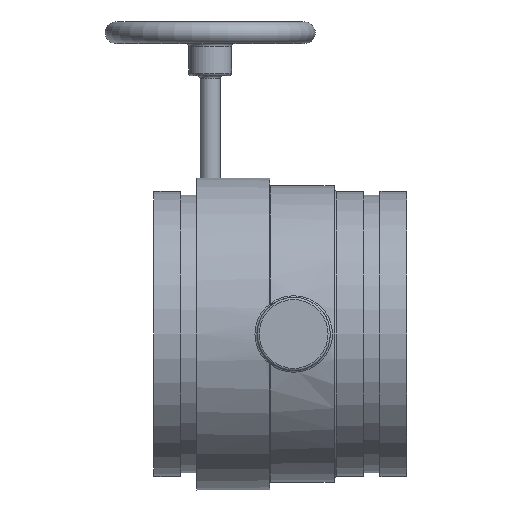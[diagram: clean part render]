
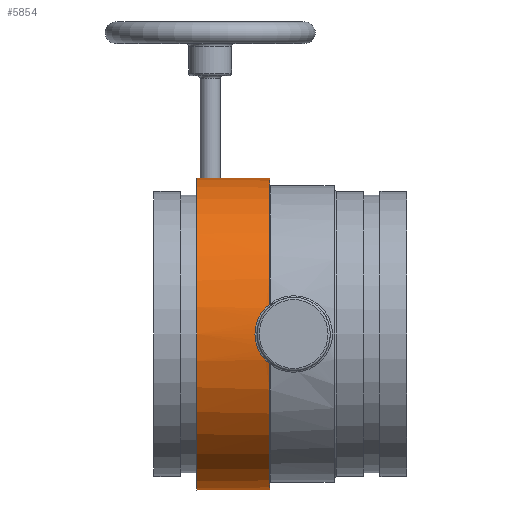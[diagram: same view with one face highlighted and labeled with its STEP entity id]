
A CAD part, front view. The second image highlights one B-rep face of the part: STEP entity #5854.
In plain terms, the highlighted cylindrical face has radius 92.075 mm (diameter 184.15 mm), a full revolution.
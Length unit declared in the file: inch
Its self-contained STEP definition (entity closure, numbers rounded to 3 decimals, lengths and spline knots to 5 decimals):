
#80=B_SPLINE_CURVE_WITH_KNOTS('',3,(#9820,#9821,#9822,#9823,#9824),
 .UNSPECIFIED.,.F.,.F.,(4,1,4),(-4.12867,-2.94905,-2.06457),
 .UNSPECIFIED.);
#81=B_SPLINE_CURVE_WITH_KNOTS('',3,(#9825,#9826,#9827,#9828,#9829,#9830),
 .UNSPECIFIED.,.F.,.F.,(4,1,1,4),(-2.06457,-1.76943,-0.58981,
0.),.UNSPECIFIED.);
#87=B_SPLINE_CURVE_WITH_KNOTS('',3,(#9964,#9965,#9966,#9967,#9968),
 .UNSPECIFIED.,.F.,.F.,(4,1,4),(0.,0.10365,0.24185),
 .UNSPECIFIED.);
#88=B_SPLINE_CURVE_WITH_KNOTS('',3,(#9972,#9973,#9974,#9975,#9976),
 .UNSPECIFIED.,.F.,.F.,(4,1,4),(0.,0.1382,0.24185),
 .UNSPECIFIED.);
#389=FACE_OUTER_BOUND('',#756,.T.);
#756=EDGE_LOOP('',(#3843,#3844,#3845,#3846,#3847,#3848,#3849,#3850,#3851,
#3852,#3853,#3854,#3855));
#1170=LINE('',#9962,#1481);
#1171=LINE('',#9978,#1482);
#1172=LINE('',#9981,#1483);
#1481=VECTOR('',#7384,0.3937);
#1482=VECTOR('',#7387,0.3937);
#1483=VECTOR('',#7390,3.625);
#1800=CIRCLE('',#6369,3.625);
#1801=CIRCLE('',#6370,3.625);
#1802=CIRCLE('',#6371,3.625);
#1803=CIRCLE('',#6372,3.625);
#1804=CIRCLE('',#6373,3.625);
#2309=VERTEX_POINT('',#9765);
#2311=VERTEX_POINT('',#9817);
#2312=VERTEX_POINT('',#9819);
#2332=VERTEX_POINT('',#9959);
#2333=VERTEX_POINT('',#9961);
#2334=VERTEX_POINT('',#9963);
#2335=VERTEX_POINT('',#9969);
#2336=VERTEX_POINT('',#9971);
#2337=VERTEX_POINT('',#9977);
#2338=VERTEX_POINT('',#9980);
#2339=VERTEX_POINT('',#9982);
#2866=EDGE_CURVE('',#2311,#2312,#80,.T.);
#2867=EDGE_CURVE('',#2312,#2309,#81,.T.);
#2899=EDGE_CURVE('',#2332,#2311,#1800,.T.);
#2900=EDGE_CURVE('',#2333,#2332,#1170,.T.);
#2901=EDGE_CURVE('',#2334,#2333,#87,.T.);
#2902=EDGE_CURVE('',#2335,#2334,#1801,.T.);
#2903=EDGE_CURVE('',#2336,#2335,#88,.T.);
#2904=EDGE_CURVE('',#2337,#2336,#1171,.T.);
#2905=EDGE_CURVE('',#2309,#2337,#1802,.T.);
#2906=EDGE_CURVE('',#2312,#2338,#1172,.T.);
#2907=EDGE_CURVE('',#2338,#2339,#1803,.T.);
#2908=EDGE_CURVE('',#2339,#2338,#1804,.T.);
#3843=ORIENTED_EDGE('',*,*,#2866,.F.);
#3844=ORIENTED_EDGE('',*,*,#2899,.F.);
#3845=ORIENTED_EDGE('',*,*,#2900,.F.);
#3846=ORIENTED_EDGE('',*,*,#2901,.F.);
#3847=ORIENTED_EDGE('',*,*,#2902,.F.);
#3848=ORIENTED_EDGE('',*,*,#2903,.F.);
#3849=ORIENTED_EDGE('',*,*,#2904,.F.);
#3850=ORIENTED_EDGE('',*,*,#2905,.F.);
#3851=ORIENTED_EDGE('',*,*,#2867,.F.);
#3852=ORIENTED_EDGE('',*,*,#2906,.T.);
#3853=ORIENTED_EDGE('',*,*,#2907,.T.);
#3854=ORIENTED_EDGE('',*,*,#2908,.T.);
#3855=ORIENTED_EDGE('',*,*,#2906,.F.);
#5322=CYLINDRICAL_SURFACE('',#6368,3.625);
#5854=ADVANCED_FACE('',(#389),#5322,.T.);
#6368=AXIS2_PLACEMENT_3D('',#9958,#7380,#7381);
#6369=AXIS2_PLACEMENT_3D('',#9960,#7382,#7383);
#6370=AXIS2_PLACEMENT_3D('',#9970,#7385,#7386);
#6371=AXIS2_PLACEMENT_3D('',#9979,#7388,#7389);
#6372=AXIS2_PLACEMENT_3D('',#9983,#7391,#7392);
#6373=AXIS2_PLACEMENT_3D('',#9984,#7393,#7394);
#7380=DIRECTION('center_axis',(0.,0.,-1.));
#7381=DIRECTION('ref_axis',(0.,1.,0.));
#7382=DIRECTION('center_axis',(0.,0.,-1.));
#7383=DIRECTION('ref_axis',(0.,-1.,0.));
#7384=DIRECTION('',(0.,0.,-1.));
#7385=DIRECTION('center_axis',(0.,0.,-1.));
#7386=DIRECTION('ref_axis',(0.,1.,0.));
#7387=DIRECTION('',(0.,0.,1.));
#7388=DIRECTION('center_axis',(0.,0.,-1.));
#7389=DIRECTION('ref_axis',(0.,-1.,0.));
#7390=DIRECTION('',(0.,0.,1.));
#7391=DIRECTION('center_axis',(0.,0.,-1.));
#7392=DIRECTION('ref_axis',(1.,0.,0.));
#7393=DIRECTION('center_axis',(0.,0.,-1.));
#7394=DIRECTION('ref_axis',(1.,0.,0.));
#9765=CARTESIAN_POINT('',(-0.69497,-3.55776,0.56));
#9817=CARTESIAN_POINT('',(0.69497,-3.55776,0.56));
#9819=CARTESIAN_POINT('',(0.,-3.625,0.9));
#9820=CARTESIAN_POINT('Ctrl Pts',(0.69497,-3.55776,0.56));
#9821=CARTESIAN_POINT('Ctrl Pts',(0.60065,-3.57618,0.6803));
#9822=CARTESIAN_POINT('Ctrl Pts',(0.38187,-3.61198,0.84714));
#9823=CARTESIAN_POINT('Ctrl Pts',(0.11447,-3.62482,0.89977));
#9824=CARTESIAN_POINT('Ctrl Pts',(0.,-3.62498,
0.89997));
#9825=CARTESIAN_POINT('Ctrl Pts',(0.,-3.62498,
0.89997));
#9826=CARTESIAN_POINT('Ctrl Pts',(-0.0382,-3.62503,
0.90003));
#9827=CARTESIAN_POINT('Ctrl Pts',(-0.229,-3.62232,
0.88793));
#9828=CARTESIAN_POINT('Ctrl Pts',(-0.48396,-3.59626,
0.78219));
#9829=CARTESIAN_POINT('Ctrl Pts',(-0.64781,-3.56697,
0.62015));
#9830=CARTESIAN_POINT('Ctrl Pts',(-0.69497,-3.55776,
0.56));
#9958=CARTESIAN_POINT('Origin',(0.,0.,1.4));
#9959=CARTESIAN_POINT('',(0.75791,3.54488,0.56));
#9960=CARTESIAN_POINT('Origin',(0.,0.,0.56));
#9961=CARTESIAN_POINT('',(0.75791,3.54488,0.7));
#9962=CARTESIAN_POINT('',(0.75791,3.54488,1.4));
#9963=CARTESIAN_POINT('',(0.69807,3.55715,0.76));
#9964=CARTESIAN_POINT('Ctrl Pts',(0.69807,3.55715,0.76));
#9965=CARTESIAN_POINT('Ctrl Pts',(0.71139,3.55454,0.76));
#9966=CARTESIAN_POINT('Ctrl Pts',(0.7425,3.54821,0.74932));
#9967=CARTESIAN_POINT('Ctrl Pts',(0.75791,3.54488,0.71814));
#9968=CARTESIAN_POINT('Ctrl Pts',(0.75791,3.54488,0.7));
#9969=CARTESIAN_POINT('',(-0.69807,3.55715,0.76));
#9970=CARTESIAN_POINT('Origin',(0.,0.,0.76));
#9971=CARTESIAN_POINT('',(-0.75791,3.54488,0.7));
#9972=CARTESIAN_POINT('Ctrl Pts',(-0.75791,3.54488,0.7));
#9973=CARTESIAN_POINT('Ctrl Pts',(-0.75791,3.54488,0.71814));
#9974=CARTESIAN_POINT('Ctrl Pts',(-0.7425,3.54821,0.74932));
#9975=CARTESIAN_POINT('Ctrl Pts',(-0.71139,3.55454,0.76));
#9976=CARTESIAN_POINT('Ctrl Pts',(-0.69807,3.55715,0.76));
#9977=CARTESIAN_POINT('',(-0.75791,3.54488,0.56));
#9978=CARTESIAN_POINT('',(-0.75791,3.54488,1.4));
#9979=CARTESIAN_POINT('Origin',(0.,0.,0.56));
#9980=CARTESIAN_POINT('',(0.,-3.625,2.25));
#9981=CARTESIAN_POINT('',(0.,-3.625,1.4));
#9982=CARTESIAN_POINT('',(0.,3.625,2.25));
#9983=CARTESIAN_POINT('Origin',(0.,0.,2.25));
#9984=CARTESIAN_POINT('Origin',(0.,0.,2.25));
